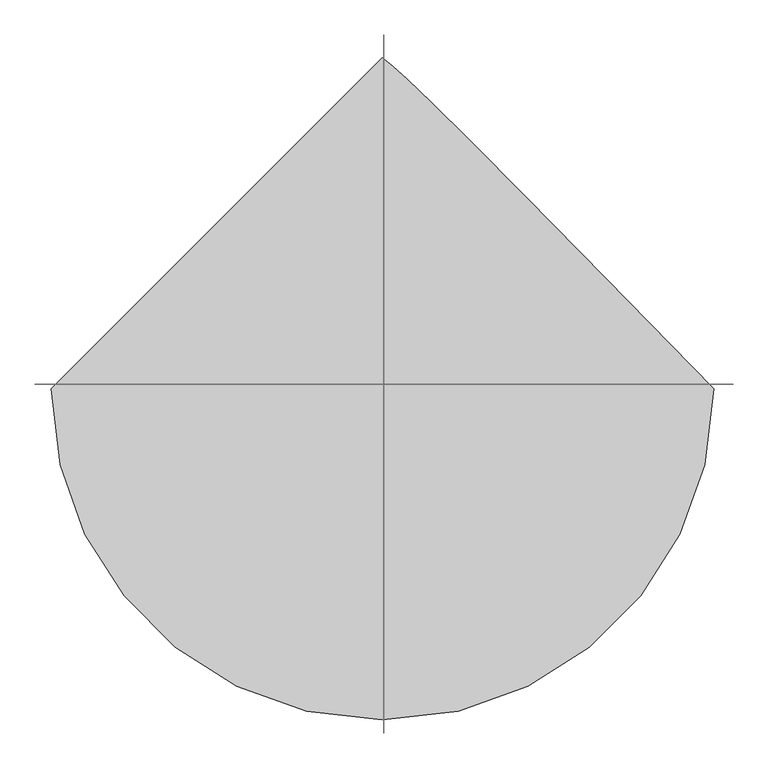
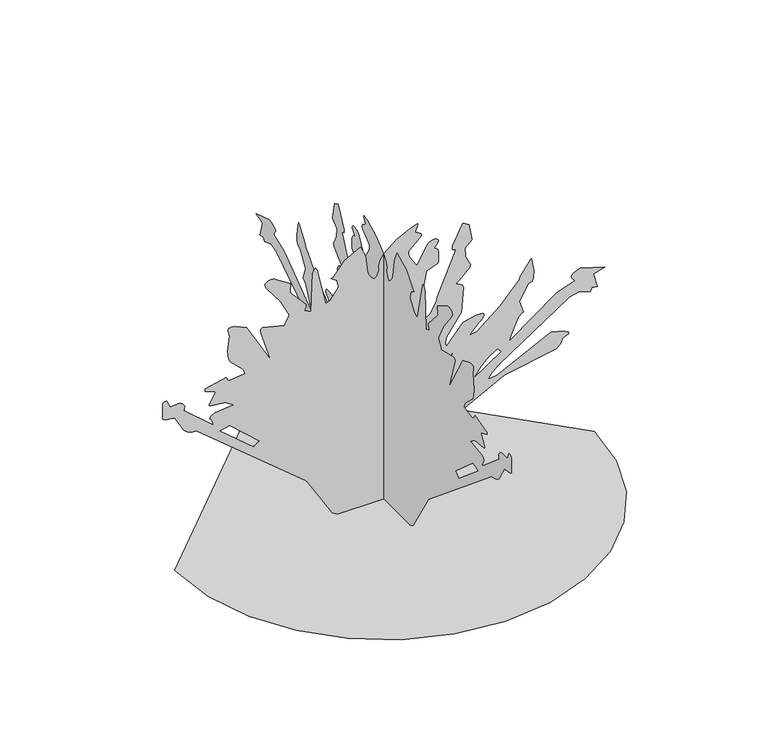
"""IFC4 building model written with IfcOpenShell, lengths in millimetres: geographic element geometry, Vegetacion PAEMFE : CORONA DE NOVIA."""

import ifcopenshell
import ifcopenshell.guid

model = None  # the IFC model being written
_history = None  # IfcOwnerHistory: only IFC2X3 demands one
_inside = {}  # id of a spatial element -> (the spatial element, [elements in it])
_under = {}  # id of a project, library or spatial element -> (it, [spatial elements below it])
_declared = {}  # id of a project -> (the project, [libraries it declares])
_typed = {}  # id of a type object -> (the type object, [elements of that type])
_made_of = {}  # id of a material, layer set ... -> (it, [elements and type objects made of it])


def new_model(schema):
    """Start an empty IFC model of exactly this schema.

    Asked for "IFC4X3", IfcOpenShell would pick the latest addendum, in which some entities
    have other attributes; the version numbers below select the first issue.
    IFC2X3 requires an IfcOwnerHistory on every rooted entity: one is made here for all.
    """
    global model, _history
    if schema == "IFC4X3":
        model = ifcopenshell.file(schema_version=(4, 3, 0, 0))
    else:
        model = ifcopenshell.file(schema=schema)
    _inside.clear()
    _under.clear()
    _declared.clear()
    _typed.clear()
    _made_of.clear()
    _history = None
    if model.schema == "IFC2X3":
        org = make("IfcOrganization", Name="unknown")
        user = make(
            "IfcPersonAndOrganization",
            ThePerson=make("IfcPerson", FamilyName="unknown"),
            TheOrganization=org,
        )
        app = make(
            "IfcApplication",
            ApplicationDeveloper=org,
            Version="unknown",
            ApplicationFullName="unknown",
            ApplicationIdentifier="unknown",
        )
        _history = make(
            "IfcOwnerHistory",
            OwningUser=user,
            OwningApplication=app,
            ChangeAction="ADDED",
            CreationDate=0,
        )
    return model


def make(cls, **values):
    """One entity of the class cls with the attributes given. An attribute that is None is left unset."""
    return model.create_entity(
        cls, **{name: value for name, value in values.items() if value is not None}
    )


def rooted(cls, **values):
    """An entity with a GlobalId (a new one), such as an element, a storey or a relation."""
    return make(cls, GlobalId=ifcopenshell.guid.new(), OwnerHistory=_history, **values)


def si_unit(unit_type, name, prefix=None):
    """IfcSIUnit, for example si_unit("LENGTHUNIT", "METRE", prefix="MILLI")."""
    return make("IfcSIUnit", UnitType=unit_type, Prefix=prefix, Name=name)


def assignment(units):
    """IfcUnitAssignment: the units of a project."""
    return None if units is None else make("IfcUnitAssignment", Units=units)


def point(xyz):
    """IfcCartesianPoint."""
    return None if xyz is None else make("IfcCartesianPoint", Coordinates=xyz)


def direction(xyz):
    """IfcDirection."""
    return None if xyz is None else make("IfcDirection", DirectionRatios=xyz)


def frame(location, z_axis=None, x_axis=None):
    """IfcAxis2Placement3D, a coordinate frame: its origin and axes. An axis left out is left unset."""
    return make(
        "IfcAxis2Placement3D",
        Location=point(location),
        Axis=direction(z_axis),
        RefDirection=direction(x_axis),
    )


def origin():
    """The frame at (0, 0, 0) with its axes left unset."""
    return frame((0.0, 0.0, 0.0))


def place(relative_to, where):
    """IfcLocalPlacement: puts the frame where relative to a parent placement (None: the world)."""
    return make(
        "IfcLocalPlacement", PlacementRelTo=relative_to, RelativePlacement=where
    )


def context(
    kind, dimensions, precision=None, world=None, true_north=None, identifier=None
):
    """IfcGeometricRepresentationContext, for example the 3D "Model" context."""
    return make(
        "IfcGeometricRepresentationContext",
        ContextIdentifier=identifier,
        ContextType=kind,
        CoordinateSpaceDimension=dimensions,
        Precision=precision,
        WorldCoordinateSystem=world,
        TrueNorth=true_north,
    )


def project(units=None, contexts=None):
    """IfcProject with its units and contexts."""
    return rooted(
        "IfcProject",
        Name="project",
        RepresentationContexts=contexts,
        UnitsInContext=assignment(units),
    )


def spatial(cls, under=None, at=None, **own):
    """A site, building, storey or space (cls), placed at a placement, below another one or the project."""
    s = rooted(cls, ObjectPlacement=at, **own)
    if under is not None:
        _under.setdefault(under.id(), (under, []))[1].append(s)
    return s


def point_list(points):
    """IfcCartesianPointList2D or 3D."""
    cls = (
        "IfcCartesianPointList2D" if len(points[0]) == 2 else "IfcCartesianPointList3D"
    )
    return make(cls, CoordList=points)


def triangles(points, corners, closed=None, point_numbers=None):
    """IfcTriangulatedFaceSet: each triangle names its three corners, points numbered from 1."""
    return make(
        "IfcTriangulatedFaceSet",
        Coordinates=point_list(points),
        Closed=closed,
        CoordIndex=corners,
        PnIndex=point_numbers,
    )


def shape(context_of_items, identifier, shape_type, items):
    """IfcShapeRepresentation: the items that make up one representation, for example the "Body"."""
    return make(
        "IfcShapeRepresentation",
        ContextOfItems=context_of_items,
        RepresentationIdentifier=identifier,
        RepresentationType=shape_type,
        Items=items,
    )


def source(mapping_origin, context_of_items, identifier, shape_type, items):
    """IfcRepresentationMap: a shape defined once, which mapped items show again and again."""
    return make(
        "IfcRepresentationMap",
        MappingOrigin=mapping_origin,
        MappedRepresentation=shape(context_of_items, identifier, shape_type, items),
    )


def transform(
    local_origin,
    x_axis=None,
    y_axis=None,
    z_axis=None,
    scale=None,
    scale2=None,
    scale3=None,
    uniform=True,
):
    """IfcCartesianTransformationOperator3D, or its non-uniform kind. x_axis, y_axis, z_axis: its Axis1, 2, 3."""
    if uniform:
        return make(
            "IfcCartesianTransformationOperator3D",
            Axis1=direction(x_axis),
            Axis2=direction(y_axis),
            LocalOrigin=point(local_origin),
            Scale=scale,
            Axis3=direction(z_axis),
        )
    return make(
        "IfcCartesianTransformationOperator3DnonUniform",
        Axis1=direction(x_axis),
        Axis2=direction(y_axis),
        LocalOrigin=point(local_origin),
        Scale=scale,
        Axis3=direction(z_axis),
        Scale2=scale2,
        Scale3=scale3,
    )


def mapped(mapping_source, mapping_target):
    """IfcMappedItem: shows the shape of a source again, moved by a transform."""
    return make(
        "IfcMappedItem", MappingSource=mapping_source, MappingTarget=mapping_target
    )


def made_of(thing, what):
    """Note that an element or type object is made of a material, layer set ...; save() writes the relation."""
    if what is not None:
        _made_of.setdefault(what.id(), (what, []))[1].append(thing)
    return thing


def element(
    cls,
    number,
    at=None,
    inside=None,
    cuts=None,
    type_object=None,
    material=None,
    context=None,
    identifier="Body",
    shape_type=None,
    held_by="IfcProductDefinitionShape",
    body=None,
    shapes=None,
    **own,
):
    """One element of the class cls, such as IfcWall. Its Tag is "e" and its number.

    at: its placement. inside: the storey or other place that contains it. cuts: it is an
    opening in that element (IfcRelVoidsElement). A single representation is given by context,
    identifier, shape_type and body (its items); several are given by shapes. held_by: the class
    of the entity that holds the representations. save() writes the other relations.
    """
    e = rooted(cls, Tag="e%d" % number, ObjectPlacement=at, **own)
    if body is not None:
        shapes = [shape(context, identifier, shape_type, body)]
    if shapes is not None:
        e.Representation = make(held_by, Representations=shapes)
    if inside is not None:
        _inside.setdefault(inside.id(), (inside, []))[1].append(e)
    if cuts is not None:
        rooted(
            "IfcRelVoidsElement", RelatingBuildingElement=cuts, RelatedOpeningElement=e
        )
    if type_object is not None:
        _typed.setdefault(type_object.id(), (type_object, []))[1].append(e)
    return made_of(e, material)


def aggregate(whole, parts):
    """IfcRelAggregates: a whole, such as a stair, and the parts it consists of."""
    return rooted("IfcRelAggregates", RelatingObject=whole, RelatedObjects=parts)


def save(model, path):
    """Write the relations noted so far, then the file.

    IfcRelAggregates (storeys below a building ...), IfcRelContainedInSpatialStructure (elements
    in a storey), IfcRelDefinesByType, IfcRelAssociatesMaterial and IfcRelDeclares: one each for
    every whole, place, type object, material and project.
    """
    for whole, parts in _under.values():
        aggregate(whole, parts)
    for where, things in _inside.values():
        rooted(
            "IfcRelContainedInSpatialStructure",
            RelatedElements=things,
            RelatingStructure=where,
        )
    for kind, things in _typed.values():
        rooted("IfcRelDefinesByType", RelatedObjects=things, RelatingType=kind)
    for what, things in _made_of.values():
        rooted("IfcRelAssociatesMaterial", RelatedObjects=things, RelatingMaterial=what)
    for by, libraries in _declared.values():
        rooted("IfcRelDeclares", RelatingContext=by, RelatedDefinitions=libraries)
    model.write(path)


def geographic_element_643136ad(model_context):
    return source(origin(), model_context, "Body", "Tessellation", [
        triangles([(-1503.7696941, 0.0, 0.0001579), (-1464.0129639, -344.5640336, 0.0001579), (-1350.7926945, -660.9913399, 0.0001579), (-1173.1723589, -940.2152121, 0.0001579), (-940.2152121, -1173.1723589, 0.0001579), (-660.9913399, -1350.7926945, 0.0001579), (-344.5640336, -1464.0129639, 0.0001579), (6.57e-05, -1503.7696941, 0.0001579), (344.5640336, -1464.0129639, 0.0001579), (660.9913399, -1350.7926945, 0.0001579), (940.2152121, -1173.1723589, 0.0001579), (1173.1723589, -940.2152121, 0.0001579), (1350.7926945, -660.9913399, 0.0001579), (1464.0129639, -344.5640336, 0.0001579), (1503.7696941, 0.0001315, 0.0001579), (1015.0753956, 501.2776511, 0.0001579), (652.784646, 870.3450583, 0.0001579), (395.8274743, 1129.2389214, 0.0001579), (223.1371067, 1299.9925976, 0.0001579), (113.6468967, 1404.6427505, 0.0001579), (46.2897572, 1465.2229191, 0.0001579), (-0.0001972, 1503.7696941, 0.0001579), (251.4165034, 21.6284105, 1993.084013), (249.6138336, 21.6284105, 1984.9506432), (233.0127939, 21.6284105, 1949.907288), (233.6564682, 21.6284105, 1942.9305336), (272.7775542, 21.6284105, 1918.2672134), (277.3258957, 21.6284105, 1905.233852), (267.8571968, 21.6284105, 1889.2137543), (189.7783871, 21.6284105, 1823.1735992), (185.200705, 21.6284105, 1813.1736282), (184.2870435, 21.6284105, 1792.9469559), (191.723054, 21.6284105, 1768.6235859), (234.2071432, 21.6284105, 1701.0800343), (245.1211573, 21.6284105, 1690.3700775), (249.4238379, 21.6284105, 1690.5667225), (321.9439754, 21.6284105, 1820.1903511), (331.161981, 21.6284105, 1830.6902916), (348.8807033, 21.6284105, 1837.8869453), (369.8474104, 21.6284105, 1840.6770367), (379.8340828, 21.6284105, 1839.5769585), (388.5774445, 21.6284105, 1836.3602943), (395.3841147, 21.6284105, 1830.6902916), (398.3274671, 21.6284105, 1821.5902657), (395.9307747, 21.6284105, 1811.3602215), (366.1940723, 21.6284105, 1772.3035938), (383.3507649, 21.6284105, 1766.7869247), (394.4007809, 21.6284105, 1752.2401382), (400.4141493, 21.6284105, 1731.6867416), (398.8707842, 21.6284105, 1664.1299641), (395.3841147, 21.6284105, 1649.6966881), (313.6459717, 21.6284105, 1620.5032665), (288.3692442, 21.6284423, 1489.8096451), (274.07088, 21.6284423, 1401.0028564), (278.7182163, 21.6284423, 1359.9193176), (296.1312522, 21.6284423, 1322.7426624), (307.8082829, 21.6284423, 1270.1992126), (325.79999, 21.6284423, 1273.9725288), (339.437348, 21.6284423, 1284.055925), (383.7074292, 21.6284423, 1363.6126968), (391.3641203, 21.6284423, 1398.1560825), (523.8310347, 21.6284105, 1708.080043), (500.7476689, 21.6284105, 1718.1067566), (497.7510132, 21.6284105, 1743.9634632), (567.9611535, 21.6284105, 1879.0470783), (576.3778273, 21.6284105, 1889.0737919), (615.691198, 21.6284105, 1867.3370373), (617.2445915, 21.6284105, 1865.7204208), (640.6013054, 21.6284105, 1743.1135151), (588.0545128, 21.6284105, 1696.4034302), (593.8911841, 21.6284105, 1632.1798794), (623.9712158, 21.6284423, 1568.4597862), (628.9246199, 21.6284423, 1562.1197662), (623.2078903, 21.6284423, 1542.0164875), (545.5444259, 21.6284423, 1465.4262497), (523.8310347, 21.6284423, 1451.1896187), (525.6044003, 21.6284423, 1449.3529575), (570.5378131, 21.6284423, 1421.9961971), (579.191173, 21.6284423, 1403.9161961), (562.3277764, 21.6284423, 1220.7523762), (455.9675898, 21.6284763, 1070.5821093), (447.9875536, 21.6284763, 1035.4054047), (453.7709215, 21.6284763, 995.7919796), (576.3778273, 21.6284423, 1135.9122786), (673.0613153, 21.6284423, 1159.5389614), (712.3647303, 21.6284423, 1159.0190077), (718.1147427, 21.6284423, 1157.2856833), (722.1081036, 21.6284423, 1154.1789688), (724.3780958, 21.6284423, 1149.8022738), (724.9647606, 21.6284423, 1144.2656204), (723.8981106, 21.6284423, 1137.6756157), (721.2181143, 21.6284423, 1130.1456247), (712.971452, 21.6284423, 1120.3789244), (698.0547026, 21.6284423, 1105.6421785), (679.3613668, 21.6284763, 1087.8354893), (659.7879976, 21.6284763, 1068.8588133), (642.2246075, 21.6284763, 1050.6087645), (629.5646244, 21.6284763, 1034.988715), (624.6979156, 21.6284763, 1023.8986942), (674.3046988, 21.6284763, 1036.1920572), (843.7883217, 21.6284423, 1171.0356434), (979.2286011, 21.6284423, 1322.7426624), (983.9753317, 21.6284423, 1340.9927113), (1061.3221367, 21.6284423, 1446.5462975), (1066.8054502, 21.6284423, 1451.1896187), (1081.7588253, 21.6284423, 1353.2259762), (1080.8821346, 21.6284423, 1305.5659492), (1072.6455008, 21.6284423, 1276.0359203), (1043.4520792, 21.6284423, 1270.1992126), (980.3186508, 21.6284423, 1158.6890133), (979.2286011, 21.6284423, 1153.4289419), (1008.4220226, 21.6284763, 1065.8521654), (988.6186529, 21.6284763, 1057.5020937), (968.8785788, 21.6284763, 1035.4820715), (912.2818153, 21.6284763, 901.3784838), (909.1684879, 21.6284763, 879.0217815), (1242.8725376, 21.6284423, 1129.1622545), (1376.2460827, 21.6284423, 1176.7823856), (1353.7593739, 21.6284423, 1203.8857458), (1352.0526466, 21.6284423, 1210.3190741), (1352.8893688, 21.6284423, 1217.65242), (1357.3893848, 21.6284423, 1225.9324379), (1366.026067, 21.6284423, 1234.042408), (1390.8560921, 21.6284423, 1247.5357704), (1417.6727692, 21.6284423, 1253.7157711), (1428.7895325, 21.6284423, 1252.6825493), (1592.2664726, 21.6284423, 1200.1357567), (1510.5297466, 21.6284423, 1176.7823856), (1539.71968, 21.6284763, 1071.6888004), (1498.8529884, 21.6284763, 1077.5288509), (1487.1763756, 21.6284763, 1054.1754072), (1408.1727676, 21.6284423, 1081.5421961), (1336.2793362, 21.6284763, 1064.2421619), (829.3450172, 21.6284763, 727.7081251), (776.6315197, 21.6284763, 677.831373), (757.3681606, 21.6284763, 645.4846556), (823.3616615, 21.6284763, 654.3646368), (1200.5690878, 21.6284763, 842.9516722), (1206.929092, 21.6284763, 843.9916523), (1298.6492203, 21.6284763, 821.5183147), (1330.0627098, 21.6284763, 802.3349653), (1334.7792824, 21.6284763, 793.3515747), (1330.5926193, 21.6284763, 787.4782413), (1324.492701, 21.6284763, 782.984911), (1287.3025291, 21.6284763, 768.1848696), (1274.4425583, 21.6284763, 730.7647699), (1241.2758327, 21.6284763, 705.0747683), (870.6817383, 21.6284763, 637.9312649), (397.9407901, 21.6285104, 390.9641084), (222.4111154, 21.6285104, 211.7144209), (90.8265146, 21.6285104, 17.0092679), (89.1271815, 21.6285104, 12.6186918), (84.6451695, 21.6285104, 8.8581513), (62.1624575, 21.6285104, 1.5075863), (-311.7669439, 21.6285104, 4.66e-05), (-320.5629913, 21.6285104, 2.152901), (-329.4319994, 21.6285104, 5.3591109), (-338.0006624, 21.6285104, 9.3113854), (-345.8973461, 21.6285104, 13.7025611), (-352.747364, 21.6285104, 18.2256703), (-358.1773742, 21.6285104, 22.5730453), (-361.8140708, 21.6285104, 26.4377872), (-545.517756, 21.6285104, 329.8423305), (-1332.7959732, 21.6284763, 984.1119513), (-1369.4661186, 21.6284763, 988.7786722), (-1399.8728382, 21.6284763, 1001.7286812), (-1424.9428196, 21.6284763, 1021.3987015), (-1490.4330082, 21.6284423, 1135.9122786), (-1559.8364754, 21.6284423, 1148.0056538), (-1571.1398552, 21.6284423, 1152.7689531), (-1578.0097847, 21.6284423, 1159.2656496), (-1576.0532181, 21.6284423, 1273.792598), (-1572.173077, 21.6284423, 1281.8758255), (-1548.819706, 21.6284423, 1287.7125332), (-1525.4663349, 21.6284423, 1235.1657406), (-1459.3596142, 21.6284423, 1238.3758644), (-1446.2195732, 21.6284423, 1233.5457813), (-1433.3928852, 21.6284423, 1223.2757687), (-1420.3728951, 21.6284423, 1205.9757345), (-1425.2561726, 21.6284423, 1173.679014), (-1426.2094574, 21.6284423, 1170.9423351), (-1216.0257751, 21.6284763, 989.9520018), (-1214.7057976, 21.6284763, 996.5386637), (-1216.635767, 21.6284763, 1005.4753275), (-1231.7358627, 21.6284763, 1034.1220528), (-1236.4791779, 21.6284763, 1040.1987167), (-1239.3791462, 21.6284763, 1042.4987217), (-1230.2025261, 21.6284763, 1061.5254673), (-1206.4857325, 21.6284763, 1074.3855108), (-1080.6521341, 21.6284423, 1088.7421926), (-1070.0654984, 21.6284423, 1089.2055365), (-1126.9922562, 21.6284423, 1129.5256044), (-1239.3791462, 21.6284423, 1141.7522564), (-1242.9957859, 21.6284423, 1146.0489418), (-1240.7091522, 21.6284423, 1157.2622835), (-1205.5524319, 21.6284423, 1221.1458115), (-1198.5123819, 21.6284423, 1229.3291782), (-1202.5157713, 21.6284423, 1232.369109), (-1274.4126183, 21.6284423, 1264.3591621), (-1274.4126183, 21.6284423, 1281.8758255), (-1122.6122183, 21.6284423, 1316.9059547), (-1110.9355328, 21.6284423, 1293.5525837), (-1104.8222431, 21.6284423, 1285.8992718), (-1088.8955263, 21.6284423, 1283.4258762), (-988.328627, 21.6284423, 1299.3892914), (-992.7519762, 21.6284423, 1320.2826382), (-1004.4786587, 21.6284423, 1339.3093838), (-1091.0488832, 21.6284423, 1421.6328472), (-1103.3988562, 21.6284423, 1448.1762852), (-1112.1655449, 21.6284423, 1507.1430347), (-1097.0688646, 21.6284105, 1622.6932491), (-1108.8522297, 21.6284105, 1664.3399803), (-1108.2988478, 21.6284105, 1672.3833847), (-1105.0955549, 21.6284105, 1678.8899643), (-1080.6388355, 21.6284105, 1681.9599804), (-1059.5121454, 21.6284105, 1680.096722), (-976.6519415, 21.6284105, 1643.8566376), (-802.5916357, 21.6284423, 1339.8926331), (-875.9051113, 21.6284423, 1575.459795), (-875.0284206, 21.6284423, 1587.9099072), (-870.1317719, 21.6284423, 1597.7431732), (-859.8817434, 21.6284423, 1602.9898006), (-702.2447084, 21.6284423, 1562.1197662), (-700.628092, 21.6284423, 1574.706498), (-673.0513596, 21.6284105, 1626.343317), (-671.0179808, 21.6284105, 1632.8065853), (-731.4347872, 21.6284105, 1754.7901279), (-832.8249647, 21.6284105, 1888.5571083), (-844.7716919, 21.6284105, 1913.1237774), (-842.3650074, 21.6284105, 1924.1037758), (-836.7550301, 21.6284105, 1931.6204681), (-829.4583097, 21.6284105, 1937.1705654), (-820.9416058, 21.6284105, 1940.9338531), (-802.1115778, 21.6284105, 1943.8005386), (-783.9815798, 21.6284105, 1941.6205845), (-661.374674, 21.6284105, 1865.7204208), (-659.2379585, 21.6284105, 1855.9903461), (-665.5646799, 21.6284105, 1815.7869862), (-665.0479963, 21.6284105, 1805.6803356), (-661.374674, 21.6284105, 1795.6569649), (-550.4444175, 21.6284105, 1667.2133514), (-548.5144481, 21.6284105, 1660.6932552), (-549.1810862, 21.6284105, 1653.406636), (-562.1211393, 21.6284105, 1626.343317), (-515.4143609, 21.6284423, 1602.9898006), (-502.1676767, 21.6284105, 1888.170504), (-493.5176597, 21.6284105, 1908.6138783), (-480.3809615, 21.6284105, 1918.2672134), (-470.5209529, 21.6284105, 1901.1104118), (-410.320812, 21.6284105, 1632.1798794), (-410.320812, 21.6284105, 1626.343317), (-390.9174542, 21.6284105, 1630.0332081), (-375.3174253, 21.6284105, 1639.9166164), (-316.9059834, 21.6284105, 1719.7568012), (-328.583323, 21.6284105, 1772.3035938), (-369.4507413, 21.6284105, 1801.49687), (-353.7840377, 21.6284105, 1807.0369389), (-272.3068707, 21.6284105, 1902.6638054), (-159.2676586, 21.6284105, 1964.9739555), (-124.9669179, 21.6284105, 1886.7003902), (-109.1898831, 21.6284105, 1764.0068619), (-100.9772031, 21.6284105, 1738.3867687), (-85.5098333, 21.6284105, 1714.0301159), (-60.0141193, 21.6284105, 1690.5667225), (-54.4904421, 21.6284105, 1693.5700275), (-47.1254257, 21.6284105, 1701.6967117), (-39.2944129, 21.6284105, 1713.6033978), (-32.3726311, 21.6284105, 1727.9533939), (-27.7366882, 21.6284105, 1743.4134968), (-26.7613207, 21.6284105, 1758.6435265), (-30.8217946, 21.6284105, 1772.3035938), (-19.9992403, 21.6284105, 1815.3370136), (9.0664183, 21.6284105, 1858.1870144), (101.5135348, 21.6284105, 1935.3738728), (205.69275, 21.6284105, 1987.9373795), (249.4238379, 21.6284105, 2000.0039394), (413.2141674, 21.6284763, 854.2850647), (397.3541253, 21.6284763, 829.7550213), (390.584117, 21.6284763, 808.2482672), (395.3841147, 21.6284763, 791.4449324), (414.8141788, 21.6284763, 798.6349005), (517.9910205, 21.6284763, 949.0818947), (-1169.3190331, 21.6284763, 925.7285236), (-924.1051489, 21.6284763, 721.3847466), (-921.1418123, 21.6284763, 725.3081263), (-916.0185059, 21.6284763, 730.1714922), (-909.455171, 21.6284763, 735.4581608), (-902.1751648, 21.6284763, 740.6547913), (-894.8984287, 21.6284763, 745.2514584), (-888.3417795, 21.6284763, 748.7281357), (-883.2351145, 21.6284763, 750.5748253), (-1099.2588472, 21.6284763, 943.245187), (768.2182251, 21.6284763, 820.4082808), (740.4714449, 21.6284763, 796.3049555), (714.2280613, 21.6284763, 769.574901), (689.6780336, 21.6284763, 741.4947836), (667.0146641, 21.6284763, 713.331459), (646.4379404, 21.6284763, 686.3513472), (850.7850603, 21.6284763, 820.6382812), (827.4316893, 21.6284763, 849.82836), (827.4316893, 21.6284763, 855.6684105), (7.1284144, 265.9168719, 1993.084013), (7.1284144, 264.1142022, 1984.9506432), (7.1284144, 247.5131624, 1949.907288), (7.1284144, 248.1568368, 1942.9305336), (7.1284144, 287.2779046, 1918.2672134), (7.1284144, 291.8262461, 1905.233852), (7.1284144, 282.3575654, 1889.2137543), (7.1284144, 204.2787374, 1823.1735992), (7.1284144, 199.7010736, 1813.1736282), (7.1284144, 198.7873939, 1792.9469559), (7.1284144, 206.2230773, 1768.6235859), (7.1284144, 248.7074936, 1701.0800343), (7.1284144, 259.6215258, 1690.3700775), (7.1284144, 263.9241883, 1690.5667225), (7.1284144, 336.4439987, 1820.1903511), (7.1284144, 345.6640391, 1830.6902916), (7.1284144, 363.3807266, 1837.8869453), (7.1284144, 384.3507766, 1840.6770367), (7.1284144, 394.3341062, 1839.5769585), (7.1284144, 403.0774678, 1836.3602943), (7.1284144, 409.8841381, 1830.6902916), (7.1284144, 412.8274904, 1821.5902657), (7.1284144, 410.4308344, 1811.3602215), (7.1284144, 380.6940957, 1772.3035938), (7.1284144, 397.8507883, 1766.7869247), (7.1284144, 408.9008042, 1752.2434811), (7.1284144, 414.9141726, 1731.6867416), (7.1284144, 413.3708439, 1664.1299641), (7.1284144, 409.8841381, 1649.6966881), (7.1284144, 328.1463221, 1620.5032665), (7.1284144, 302.8696127, 1489.8096451), (7.1284144, 288.5712486, 1401.0028564), (7.1284144, 293.2185848, 1359.9193176), (7.1284144, 310.6319478, 1322.7426624), (7.1284144, 322.3086333, 1270.1992126), (7.1284144, 340.3006674, 1273.9758717), (7.1284144, 353.9373713, 1284.0592678), (7.1284144, 398.2074526, 1363.6126968), (7.1284144, 405.8641437, 1398.1560825), (7.1284144, 538.3310944, 1708.080043), (7.1284144, 515.2476923, 1718.1067566), (7.1284144, 512.254343, 1743.9634632), (7.1284144, 582.4611769, 1879.0470783), (7.1284144, 590.8778506, 1889.0737919), (7.1284144, 630.1912577, 1867.3370373), (7.1284144, 631.7479214, 1865.7204208), (7.1284144, 655.1012924, 1743.1135151), (7.1284144, 602.5545362, 1696.4034302), (7.1284144, 608.3912075, 1632.1832222), (7.1284144, 638.4712755, 1568.4597862), (7.1284144, 643.4246069, 1562.1197662), (7.1284144, 637.70795, 1542.0164875), (7.1284144, 560.0444492, 1465.4262497), (7.1284144, 538.3310944, 1451.1896187), (7.1284144, 540.1044236, 1449.3529575), (7.1284144, 585.0378365, 1421.9961971), (7.1284144, 593.6911963, 1403.9161961), (7.1284144, 576.8278361, 1220.7523762), (7.1284144, 470.4676131, 1070.5821093), (7.1284144, 462.487577, 1035.4054047), (7.1284144, 468.2709449, 995.7919796), (7.1284144, 590.8778506, 1135.9122786), (7.1284144, 687.561375, 1159.5389614), (7.1284144, 726.86479, 1159.0190077), (7.1284144, 732.6148024, 1157.2889534), (7.1284144, 736.6081633, 1154.1789688), (7.1284144, 738.8781555, 1149.8022738), (7.1284144, 739.4648203, 1144.2656204), (7.1284144, 738.3981703, 1137.6756157), (7.1284144, 735.718174, 1130.1456247), (7.1284144, 727.471439, 1120.3789244), (7.1284144, 712.5547623, 1105.6421785), (7.1284144, 693.8613539, 1087.8354893), (7.1284144, 674.2879847, 1068.8588133), (7.1284144, 656.7246672, 1050.6087645), (7.1284144, 644.0646114, 1034.988715), (7.1284144, 639.1979753, 1023.8986942), (7.1284144, 688.8046858, 1036.1920572), (7.1284144, 858.2883814, 1171.0356434), (7.1284144, 993.7320036, 1322.7426624), (7.1284144, 998.4753187, 1340.9927113), (7.1284144, 1075.8254665, 1446.5462975), (7.1284144, 1081.3055099, 1451.1896187), (7.1284144, 1096.2622278, 1353.2259762), (7.1284144, 1095.3821943, 1305.5659492), (7.1284144, 1087.1454878, 1276.0359203), (7.1284144, 1057.9521389, 1270.1992126), (7.1284144, 994.8186378, 1158.6890133), (7.1284144, 993.7320036, 1153.4289419), (7.1284144, 1022.9220097, 1065.8521654), (7.1284144, 1003.1186399, 1057.5054365), (7.1284144, 983.3786385, 1035.4820715), (7.1284144, 926.781875, 901.3784838), (7.1284144, 923.6685476, 879.0217815), (7.1284144, 1257.3725246, 1129.1622545), (7.1284144, 1390.7460697, 1176.7823856), (7.1284144, 1368.2627037, 1203.8857458), (7.1284144, 1366.552779, 1210.3190741), (7.1284144, 1367.3926987, 1217.65242), (7.1284144, 1371.8893719, 1225.9324379), (7.1284144, 1380.526054, 1234.042408), (7.1284144, 1405.3560791, 1247.5357704), (7.1284144, 1432.1729015, 1253.7157711), (7.1284144, 1443.2895195, 1252.6825493), (7.1284144, 1606.766605, 1200.1357567), (7.1284144, 1525.0297337, 1176.7823856), (7.1284144, 1554.2198124, 1071.6888004), (7.1284144, 1513.3529755, 1077.5288509), (7.1284144, 1501.6763626, 1054.1754072), (7.1284144, 1422.6729, 1081.5421961), (7.1284144, 1350.7793232, 1064.2421619), (7.1284144, 843.8450043, 727.7081251), (7.1284144, 791.1315794, 677.831373), (7.1284144, 771.8682203, 645.4846556), (7.1284144, 837.8616486, 654.3646368), (7.1284144, 1215.0690748, 842.9516722), (7.1284144, 1221.4290791, 843.9916523), (7.1284144, 1313.1493526, 821.5183147), (7.1284144, 1344.5626968, 802.3349653), (7.1284144, 1349.2794147, 793.3515747), (7.1284144, 1345.0927517, 787.4782413), (7.1284144, 1338.9960308, 782.984911), (7.1284144, 1301.8060043, 768.1848696), (7.1284144, 1288.9425453, 730.7647699), (7.1284144, 1255.7758198, 705.0747683), (7.1284144, 885.181798, 637.9312649), (7.1284144, 412.4408134, 390.9641084), (7.1284144, 236.9114658, 211.7140939), (7.1284144, 105.326874, 17.0092339), (7.1284144, 103.627541, 12.6186248), (7.1284144, 99.1455289, 8.8581178), (7.1284144, 76.662817, 1.5075396), (7.1284144, -297.2665936, 0.0), (7.1284144, -306.0626046, 2.1528543), (7.1284144, -314.9316127, 5.3590439), (7.1284144, -323.5006391, 9.311352), (7.1284144, -331.3959784, 13.7025271), (7.1284144, -338.2439979, 18.2256033), (7.1284144, -343.6773508, 22.5730112), (7.1284144, -347.3140111, 26.4377531), (7.1284144, -531.0177326, 329.8423305), (7.1284144, -1318.2959862, 984.1119513), (7.1284144, -1354.9659863, 988.7786722), (7.1284144, -1385.3727058, 1001.7286812), (7.1284144, -1410.4428326, 1021.3987015), (7.1284144, -1475.9330212, 1135.9122786), (7.1284144, -1545.3364883, 1148.0056538), (7.1284144, -1556.6397228, 1152.7689531), (7.1284144, -1563.5097977, 1159.2656496), (7.1284144, -1561.5530857, 1273.792598), (7.1284144, -1557.67309, 1281.8758255), (7.1284144, -1534.3197189, 1287.7125332), (7.1284144, -1510.9663479, 1235.1657406), (7.1284144, -1444.8596272, 1238.3758644), (7.1284144, -1431.7195862, 1233.5457813), (7.1284144, -1418.8928982, 1223.2757687), (7.1284144, -1405.8727627, 1205.9757345), (7.1284144, -1410.7561855, 1173.679014), (7.1284144, -1411.7094704, 1170.9456779), (7.1284144, -1201.5257154, 989.9520018), (7.1284144, -1200.2057379, 996.5386637), (7.1284144, -1202.1357073, 1005.4753275), (7.1284144, -1217.235803, 1034.1220528), (7.1284144, -1221.9790455, 1040.1987167), (7.1284144, -1224.8791592, 1042.4987217), (7.1284144, -1215.7024664, 1061.5254673), (7.1284144, -1191.9824026, 1074.3855108), (7.1284144, -1066.1521471, 1088.7455355), (7.1284144, -1055.5654387, 1089.2055365), (7.1284144, -1112.4889263, 1129.5256044), (7.1284144, -1224.8791592, 1141.7522564), (7.1284144, -1228.4957989, 1146.0489418), (7.1284144, -1226.2091652, 1157.2622835), (7.1284144, -1191.0523722, 1221.1458115), (7.1284144, -1184.0123949, 1229.3291782), (7.1284144, -1188.0157116, 1232.369109), (7.1284144, -1259.9124859, 1264.3591621), (7.1284144, -1259.9124859, 1281.8758255), (7.1284144, -1108.1122313, 1316.9059547), (7.1284144, -1096.4355457, 1293.5525837), (7.1284144, -1090.3221834, 1285.8992718), (7.1284144, -1074.3921238, 1283.4258762), (7.1284144, -973.82864, 1299.3892914), (7.1284144, -978.2519892, 1320.2826382), (7.1284144, -989.9786716, 1339.3093838), (7.1284144, -1076.5488235, 1421.6328472), (7.1284144, -1088.8988691, 1448.1762852), (7.1284144, -1097.6655579, 1507.1430347), (7.1284144, -1082.5688049, 1622.6932491), (7.1284144, -1094.35217, 1664.3399803), (7.1284144, -1093.7988607, 1672.3833847), (7.1284144, -1090.5954952, 1678.8899643), (7.1284144, -1066.1387758, 1681.9599804), (7.1284144, -1045.0120857, 1680.096722), (7.1284144, -962.1519545, 1643.8599804), (7.1284144, -788.091576, 1339.8926331), (7.1284144, -861.4050516, 1575.459795), (7.1284144, -860.5283609, 1587.9099072), (7.1284144, -855.6317122, 1597.7431732), (7.1284144, -845.3816837, 1602.9898006), (7.1284144, -687.7447214, 1562.1197662), (7.1284144, -686.1246895, 1574.706498), (7.1284144, -658.5512999, 1626.343317), (7.1284144, -656.5179937, 1632.8065853), (7.1284144, -716.9348001, 1754.7901279), (7.1284144, -818.3249777, 1888.5571083), (7.1284144, -830.2716322, 1913.1237774), (7.1284144, -827.8650204, 1924.1037758), (7.1284144, -822.2549704, 1931.6204681), (7.1284144, -814.9583227, 1937.1705654), (7.1284144, -806.4416187, 1940.9338531), (7.1284144, -787.6115908, 1943.8005386), (7.1284144, -769.4815201, 1941.6205845), (7.1284144, -646.8746143, 1865.7204208), (7.1284144, -644.7379715, 1855.9903461), (7.1284144, -651.0612774, 1815.7869862), (7.1284144, -650.5479366, 1805.6803356), (7.1284144, -646.8746143, 1795.6569649), (7.1284144, -535.9443941, 1667.2133514), (7.1284144, -534.0143884, 1660.6932552), (7.1284144, -534.6810628, 1653.406636), (7.1284144, -547.6210796, 1626.343317), (7.1284144, -500.9143375, 1602.9898006), (7.1284144, -487.6676534, 1888.170504), (7.1284144, -479.0176363, 1908.6138783), (7.1284144, -465.8809381, 1918.2672134), (7.1284144, -456.0175867, 1901.1137547), (7.1284144, -395.8207887, 1632.1832222), (7.1284144, -395.8207887, 1626.343317), (7.1284144, -376.4174309, 1630.0332081), (7.1284144, -360.817402, 1639.9166164), (7.1284144, -302.4055967, 1719.7568012), (7.1284144, -314.0829726, 1772.3035938), (7.1284144, -354.9507179, 1801.49687), (7.1284144, -339.2806715, 1807.0369389), (7.1284144, -257.8065203, 1902.6638054), (7.1284144, -144.76729, 1964.9739555), (7.1284144, -110.4665585, 1886.7003902), (7.1284144, -94.6895237, 1764.0068619), (7.1284144, -86.4768436, 1738.3867687), (7.1284144, -71.0094738, 1714.0301159), (7.1284144, -45.5137599, 1690.5667225), (7.1284144, -39.9904142, 1693.5700275), (7.1284144, -32.6250321, 1701.6967117), (7.1284144, -24.793949, 1713.6033978), (7.1284144, -17.8723023, 1727.9533939), (7.1284144, -13.2363594, 1743.4134968), (7.1284144, -12.2609908, 1758.6435265), (7.1284144, -16.3214329, 1772.3035938), (7.1284144, -5.4989109, 1815.3370136), (7.1284144, 23.566746, 1858.1870144), (7.1284144, 116.0138943, 1935.3738728), (7.1284144, 220.1931004, 1987.9373795), (7.1284144, 263.9241883, 2000.0039394), (7.1284144, 427.7141908, 854.2850647), (7.1284144, 411.8541487, 829.7550213), (7.1284144, 405.0841404, 808.2482672), (7.1284144, 409.8841381, 791.4449324), (7.1284144, 429.3142021, 798.6349005), (7.1284144, 532.4910802, 949.0818947), (7.1284144, -1154.8189734, 925.7285236), (7.1284144, -909.6051619, 721.3847466), (7.1284144, -906.6418253, 725.3081263), (7.1284144, -901.5184462, 730.1714922), (7.1284144, -894.9551113, 735.4581608), (7.1284144, -887.6751051, 740.6547913), (7.1284144, -880.3950989, 745.2514584), (7.1284144, -873.8417198, 748.7281357), (7.1284144, -868.7350548, 750.5748253), (7.1284144, -1084.7588602, 943.245187), (7.1284144, 782.7182121, 820.4082808), (7.1284144, 754.9715046, 796.3049555), (7.1284144, 728.728121, 769.574901), (7.1284144, 704.1780933, 741.4947836), (7.1284144, 681.5147238, 713.331459), (7.1284144, 660.9380001, 686.3513472), (7.1284144, 865.2850473, 820.6382812), (7.1284144, 841.9316763, 849.82836), (7.1284144, 841.9316763, 855.6684105)], [[21, 22, 1], [20, 21, 1], [19, 20, 1], [18, 19, 1], [17, 18, 1], [17, 1, 2], [17, 2, 3], [17, 3, 4], [16, 17, 4], [16, 4, 5], [16, 5, 6], [16, 6, 7], [16, 7, 8], [16, 8, 9], [16, 9, 10], [16, 10, 11], [16, 11, 12], [15, 16, 12], [14, 15, 12], [13, 14, 12], [126, 127, 128], [104, 105, 106], [298, 284, 285], [298, 285, 286], [298, 286, 287], [298, 287, 288], [298, 288, 289], [298, 289, 290], [298, 290, 291], [255, 256, 257], [103, 104, 106], [128, 129, 130], [258, 259, 260], [247, 248, 249], [275, 276, 23], [275, 23, 24], [111, 112, 113], [246, 247, 249], [130, 131, 132], [128, 130, 132], [126, 128, 132], [125, 126, 132], [124, 125, 132], [123, 124, 132], [245, 246, 249], [245, 249, 250], [245, 250, 251], [173, 174, 175], [172, 173, 175], [291, 26, 27], [186, 187, 188], [199, 200, 201], [198, 199, 201], [198, 201, 202], [197, 198, 202], [197, 202, 203], [65, 66, 67], [275, 24, 25], [275, 25, 26], [103, 106, 107], [102, 103, 107], [102, 107, 108], [102, 108, 109], [102, 109, 110], [101, 102, 110], [101, 110, 111], [101, 111, 113], [101, 113, 114], [101, 114, 115], [100, 101, 115], [100, 115, 116], [141, 142, 143], [62, 63, 64], [68, 69, 70], [50, 51, 52], [213, 214, 215], [212, 213, 215], [212, 215, 216], [211, 212, 216], [141, 143, 144], [140, 141, 144], [139, 140, 144], [139, 144, 145], [297, 298, 291], [185, 186, 188], [185, 188, 189], [184, 185, 189], [258, 260, 261], [257, 258, 261], [255, 257, 261], [254, 255, 261], [254, 261, 262], [254, 262, 263], [184, 189, 190], [183, 184, 190], [211, 216, 217], [210, 211, 217], [209, 210, 217], [208, 209, 217], [207, 208, 217], [207, 217, 218], [206, 207, 218], [205, 206, 218], [72, 73, 74], [67, 68, 70], [65, 67, 70], [64, 65, 70], [62, 64, 70], [62, 70, 71], [62, 71, 72], [62, 72, 74], [62, 74, 75], [62, 75, 76], [61, 62, 76], [61, 76, 77], [60, 61, 77], [296, 297, 291], [193, 194, 195], [192, 193, 195], [192, 195, 196], [192, 196, 197], [192, 197, 203], [192, 203, 204], [191, 192, 204], [191, 204, 205], [191, 205, 218], [139, 145, 146], [139, 146, 147], [138, 139, 147], [138, 147, 148], [137, 138, 148], [136, 137, 148], [136, 148, 149], [49, 50, 52], [48, 49, 52], [47, 48, 52], [46, 47, 52], [27, 28, 29], [254, 263, 264], [295, 296, 291], [99, 100, 116], [170, 171, 172], [170, 172, 175], [169, 170, 175], [168, 169, 175], [168, 175, 176], [168, 176, 177], [168, 177, 178], [168, 178, 179], [168, 179, 180], [168, 180, 181], [168, 181, 182], [167, 168, 182], [166, 167, 182], [165, 166, 182], [164, 165, 182], [60, 77, 78], [60, 78, 79], [60, 79, 80], [59, 60, 80], [58, 59, 80], [58, 80, 81], [57, 58, 81], [57, 81, 82], [235, 236, 237], [235, 237, 238], [274, 275, 26], [294, 295, 291], [253, 254, 264], [235, 238, 239], [182, 183, 190], [299, 300, 301], [228, 229, 230], [228, 230, 231], [228, 231, 232], [228, 232, 233], [228, 233, 234], [228, 234, 235], [228, 235, 239], [227, 228, 239], [227, 239, 240], [227, 240, 241], [226, 227, 241], [226, 241, 242], [226, 242, 243], [226, 243, 244], [225, 226, 244], [224, 225, 244], [223, 224, 244], [220, 221, 222], [219, 220, 222], [218, 219, 222], [218, 222, 223], [218, 223, 244], [218, 244, 245], [282, 83, 84], [282, 84, 85], [282, 85, 86], [282, 86, 87], [282, 87, 88], [282, 88, 89], [282, 89, 90], [282, 90, 91], [282, 91, 92], [282, 92, 93], [282, 93, 94], [282, 94, 95], [282, 95, 96], [282, 96, 97], [282, 97, 98], [282, 98, 99], [282, 99, 116], [281, 282, 116], [182, 190, 191], [42, 43, 44], [42, 44, 45], [41, 42, 45], [40, 41, 45], [39, 40, 45], [38, 39, 45], [37, 38, 45], [37, 45, 46], [37, 46, 52], [36, 37, 52], [35, 36, 52], [35, 52, 53], [34, 35, 53], [83, 282, 277], [270, 271, 272], [273, 274, 26], [272, 273, 26], [270, 272, 26], [269, 270, 26], [268, 269, 26], [218, 245, 251], [151, 152, 153], [218, 251, 252], [267, 268, 26], [82, 83, 277], [57, 82, 277], [57, 277, 278], [57, 278, 279], [151, 153, 154], [252, 253, 264], [218, 252, 264], [150, 151, 154], [150, 154, 155], [150, 155, 156], [150, 156, 157], [150, 157, 158], [150, 158, 159], [150, 159, 160], [150, 160, 161], [150, 161, 162], [150, 162, 163], [149, 150, 163], [120, 121, 122], [119, 120, 122], [119, 122, 123], [118, 119, 123], [118, 123, 132], [117, 118, 132], [117, 132, 133], [117, 133, 134], [116, 117, 134], [34, 53, 54], [136, 149, 163], [135, 136, 163], [134, 135, 163], [191, 218, 264], [266, 267, 26], [266, 26, 291], [265, 266, 291], [264, 265, 291], [191, 264, 291], [191, 291, 292], [182, 191, 292], [182, 292, 283], [164, 182, 283], [164, 283, 284], [163, 164, 284], [163, 284, 298], [134, 163, 298], [134, 298, 299], [116, 134, 299], [116, 299, 301], [281, 116, 301], [281, 301, 293], [281, 293, 294], [280, 281, 294], [280, 294, 291], [279, 280, 291], [57, 279, 291], [56, 57, 291], [55, 56, 291], [54, 55, 291], [34, 54, 291], [33, 34, 291], [32, 33, 291], [31, 32, 291], [30, 31, 291], [30, 291, 27], [30, 27, 29], [405, 406, 407], [383, 384, 385], [577, 563, 564], [577, 564, 565], [577, 565, 566], [577, 566, 567], [577, 567, 568], [577, 568, 569], [577, 569, 570], [534, 535, 536], [382, 383, 385], [407, 408, 409], [537, 538, 539], [526, 527, 528], [554, 555, 302], [554, 302, 303], [390, 391, 392], [525, 526, 528], [409, 410, 411], [407, 409, 411], [405, 407, 411], [404, 405, 411], [403, 404, 411], [402, 403, 411], [524, 525, 528], [524, 528, 529], [524, 529, 530], [452, 453, 454], [451, 452, 454], [570, 305, 306], [465, 466, 467], [478, 479, 480], [477, 478, 480], [477, 480, 481], [476, 477, 481], [476, 481, 482], [344, 345, 346], [554, 303, 304], [554, 304, 305], [382, 385, 386], [381, 382, 386], [381, 386, 387], [381, 387, 388], [381, 388, 389], [380, 381, 389], [380, 389, 390], [380, 390, 392], [380, 392, 393], [380, 393, 394], [379, 380, 394], [379, 394, 395], [420, 421, 422], [341, 342, 343], [347, 348, 349], [329, 330, 331], [492, 493, 494], [491, 492, 494], [491, 494, 495], [490, 491, 495], [420, 422, 423], [419, 420, 423], [418, 419, 423], [418, 423, 424], [576, 577, 570], [464, 465, 467], [464, 467, 468], [463, 464, 468], [537, 539, 540], [536, 537, 540], [534, 536, 540], [533, 534, 540], [533, 540, 541], [533, 541, 542], [463, 468, 469], [462, 463, 469], [490, 495, 496], [489, 490, 496], [488, 489, 496], [487, 488, 496], [486, 487, 496], [486, 496, 497], [485, 486, 497], [484, 485, 497], [351, 352, 353], [346, 347, 349], [344, 346, 349], [343, 344, 349], [341, 343, 349], [341, 349, 350], [341, 350, 351], [341, 351, 353], [341, 353, 354], [341, 354, 355], [340, 341, 355], [340, 355, 356], [339, 340, 356], [575, 576, 570], [472, 473, 474], [471, 472, 474], [471, 474, 475], [471, 475, 476], [471, 476, 482], [471, 482, 483], [470, 471, 483], [470, 483, 484], [470, 484, 497], [418, 424, 425], [418, 425, 426], [417, 418, 426], [417, 426, 427], [416, 417, 427], [415, 416, 427], [415, 427, 428], [328, 329, 331], [327, 328, 331], [326, 327, 331], [325, 326, 331], [306, 307, 308], [533, 542, 543], [574, 575, 570], [378, 379, 395], [449, 450, 451], [449, 451, 454], [448, 449, 454], [447, 448, 454], [447, 454, 455], [447, 455, 456], [447, 456, 457], [447, 457, 458], [447, 458, 459], [447, 459, 460], [447, 460, 461], [446, 447, 461], [445, 446, 461], [444, 445, 461], [443, 444, 461], [339, 356, 357], [339, 357, 358], [339, 358, 359], [338, 339, 359], [337, 338, 359], [337, 359, 360], [336, 337, 360], [336, 360, 361], [514, 515, 516], [514, 516, 517], [553, 554, 305], [573, 574, 570], [532, 533, 543], [514, 517, 518], [461, 462, 469], [578, 579, 580], [507, 508, 509], [507, 509, 510], [507, 510, 511], [507, 511, 512], [507, 512, 513], [507, 513, 514], [507, 514, 518], [506, 507, 518], [506, 518, 519], [506, 519, 520], [505, 506, 520], [505, 520, 521], [505, 521, 522], [505, 522, 523], [504, 505, 523], [503, 504, 523], [502, 503, 523], [499, 500, 501], [498, 499, 501], [497, 498, 501], [497, 501, 502], [497, 502, 523], [497, 523, 524], [561, 362, 363], [561, 363, 364], [561, 364, 365], [561, 365, 366], [561, 366, 367], [561, 367, 368], [561, 368, 369], [561, 369, 370], [561, 370, 371], [561, 371, 372], [561, 372, 373], [561, 373, 374], [561, 374, 375], [561, 375, 376], [561, 376, 377], [561, 377, 378], [561, 378, 395], [560, 561, 395], [461, 469, 470], [321, 322, 323], [321, 323, 324], [320, 321, 324], [319, 320, 324], [318, 319, 324], [317, 318, 324], [316, 317, 324], [316, 324, 325], [316, 325, 331], [315, 316, 331], [314, 315, 331], [314, 331, 332], [313, 314, 332], [362, 561, 556], [549, 550, 551], [552, 553, 305], [551, 552, 305], [549, 551, 305], [548, 549, 305], [547, 548, 305], [497, 524, 530], [430, 431, 432], [497, 530, 531], [546, 547, 305], [361, 362, 556], [336, 361, 556], [336, 556, 557], [336, 557, 558], [430, 432, 433], [531, 532, 543], [497, 531, 543], [429, 430, 433], [429, 433, 434], [429, 434, 435], [429, 435, 436], [429, 436, 437], [429, 437, 438], [429, 438, 439], [429, 439, 440], [429, 440, 441], [429, 441, 442], [428, 429, 442], [399, 400, 401], [398, 399, 401], [398, 401, 402], [397, 398, 402], [397, 402, 411], [396, 397, 411], [396, 411, 412], [396, 412, 413], [395, 396, 413], [313, 332, 333], [415, 428, 442], [414, 415, 442], [413, 414, 442], [470, 497, 543], [545, 546, 305], [545, 305, 570], [544, 545, 570], [543, 544, 570], [470, 543, 570], [470, 570, 571], [461, 470, 571], [461, 571, 562], [443, 461, 562], [443, 562, 563], [442, 443, 563], [442, 563, 577], [413, 442, 577], [413, 577, 578], [395, 413, 578], [395, 578, 580], [560, 395, 580], [560, 580, 572], [560, 572, 573], [559, 560, 573], [559, 573, 570], [558, 559, 570], [336, 558, 570], [335, 336, 570], [334, 335, 570], [333, 334, 570], [313, 333, 570], [312, 313, 570], [311, 312, 570], [310, 311, 570], [309, 310, 570], [309, 570, 306], [309, 306, 308]], closed=False),
    ])


if __name__ == "__main__":
    model = new_model("IFC4")
    model_context = context("Model", 3, world=origin())
    ifc_project = project(units=[si_unit("LENGTHUNIT", "METRE", prefix="MILLI")], contexts=[model_context])
    site = spatial("IfcSite", under=ifc_project)
    building = spatial("IfcBuilding", under=site)
    placement = place(None, origin())
    geographic_element_shape = geographic_element_643136ad(model_context)
    element("IfcGeographicElement", 1, ObjectType="Vegetacion PAEMFE : CORONA DE NOVIA", at=placement, inside=building, context=model_context, shape_type="MappedRepresentation", body=[
        mapped(geographic_element_shape, transform((0.0, 0.0, 0.0), x_axis=(1.0, 0.0, 0.0), y_axis=(0.0, 1.0, 0.0), z_axis=(0.0, 0.0, 1.0))),
    ])
    save(model, "model.ifc")
